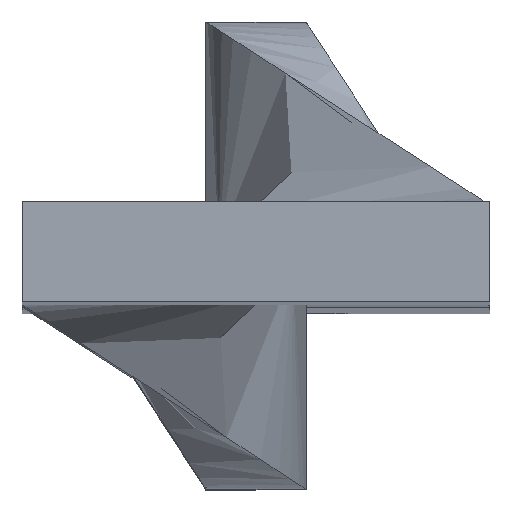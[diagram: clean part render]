
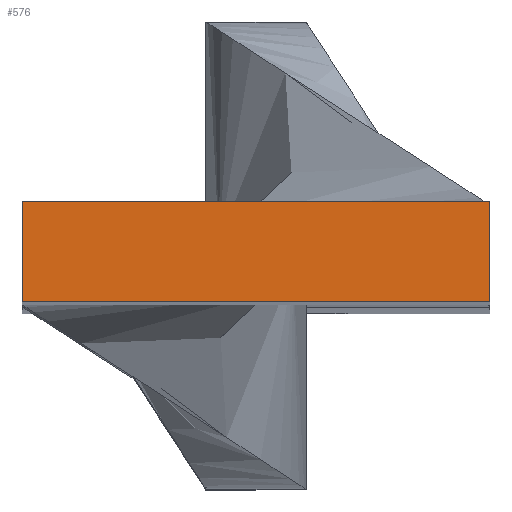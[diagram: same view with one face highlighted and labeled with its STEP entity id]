
A CAD part, top view. The second image highlights one B-rep face of the part: STEP entity #576.
In plain terms, the highlighted planar face has unit normal (0, 0, 1).
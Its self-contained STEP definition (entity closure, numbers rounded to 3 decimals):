
#42 = DIRECTION ( 'NONE',  ( -1., 0., 0. ) ) ;
#74 = CARTESIAN_POINT ( 'NONE',  ( 7., 1.5, 208.5 ) ) ;
#138 = VECTOR ( 'NONE', #676, 1000. ) ;
#140 = CARTESIAN_POINT ( 'NONE',  ( 7., -1.5, 208.5 ) ) ;
#144 = VECTOR ( 'NONE', #42, 1000. ) ;
#146 = ORIENTED_EDGE ( 'NONE', *, *, #357, .F. ) ;
#180 = EDGE_CURVE ( 'NONE', #619, #610, #957, .T. ) ;
#200 = PLANE ( 'NONE',  #282 ) ;
#203 = DIRECTION ( 'NONE',  ( -1., 0., 0. ) ) ;
#218 = CARTESIAN_POINT ( 'NONE',  ( 0., 0., 208.5 ) ) ;
#227 = DIRECTION ( 'NONE',  ( 0., 0., -1. ) ) ;
#248 = ORIENTED_EDGE ( 'NONE', *, *, #180, .F. ) ;
#282 = AXIS2_PLACEMENT_3D ( 'NONE', #218, #227, #203 ) ;
#288 = LINE ( 'NONE', #140, #144 ) ;
#301 = LINE ( 'NONE', #648, #933 ) ;
#311 = EDGE_CURVE ( 'NONE', #570, #619, #301, .T. ) ;
#357 = EDGE_CURVE ( 'NONE', #610, #378, #921, .T. ) ;
#362 = CARTESIAN_POINT ( 'NONE',  ( -7., -1.5, 208.5 ) ) ;
#365 = ORIENTED_EDGE ( 'NONE', *, *, #735, .F. ) ;
#373 = FACE_OUTER_BOUND ( 'NONE', #529, .T. ) ;
#378 = VERTEX_POINT ( 'NONE', #584 ) ;
#434 = CARTESIAN_POINT ( 'NONE',  ( 7., 1.5, 208.5 ) ) ;
#529 = EDGE_LOOP ( 'NONE', ( #863, #365, #146, #248 ) ) ;
#570 = VERTEX_POINT ( 'NONE', #362 ) ;
#576 = ADVANCED_FACE ( 'NONE', ( #373 ), #200, .F. ) ;
#584 = CARTESIAN_POINT ( 'NONE',  ( 7., -1.5, 208.5 ) ) ;
#610 = VERTEX_POINT ( 'NONE', #74 ) ;
#619 = VERTEX_POINT ( 'NONE', #940 ) ;
#648 = CARTESIAN_POINT ( 'NONE',  ( -7., -1.5, 208.5 ) ) ;
#658 = DIRECTION ( 'NONE',  ( 0., 1., 0. ) ) ;
#676 = DIRECTION ( 'NONE',  ( 0., -1., 0. ) ) ;
#683 = VECTOR ( 'NONE', #721, 1000. ) ;
#721 = DIRECTION ( 'NONE',  ( 1., 0., 0. ) ) ;
#725 = CARTESIAN_POINT ( 'NONE',  ( -7., 1.5, 208.5 ) ) ;
#735 = EDGE_CURVE ( 'NONE', #378, #570, #288, .T. ) ;
#863 = ORIENTED_EDGE ( 'NONE', *, *, #311, .F. ) ;
#921 = LINE ( 'NONE', #434, #138 ) ;
#933 = VECTOR ( 'NONE', #658, 1000. ) ;
#940 = CARTESIAN_POINT ( 'NONE',  ( -7., 1.5, 208.5 ) ) ;
#957 = LINE ( 'NONE', #725, #683 ) ;
